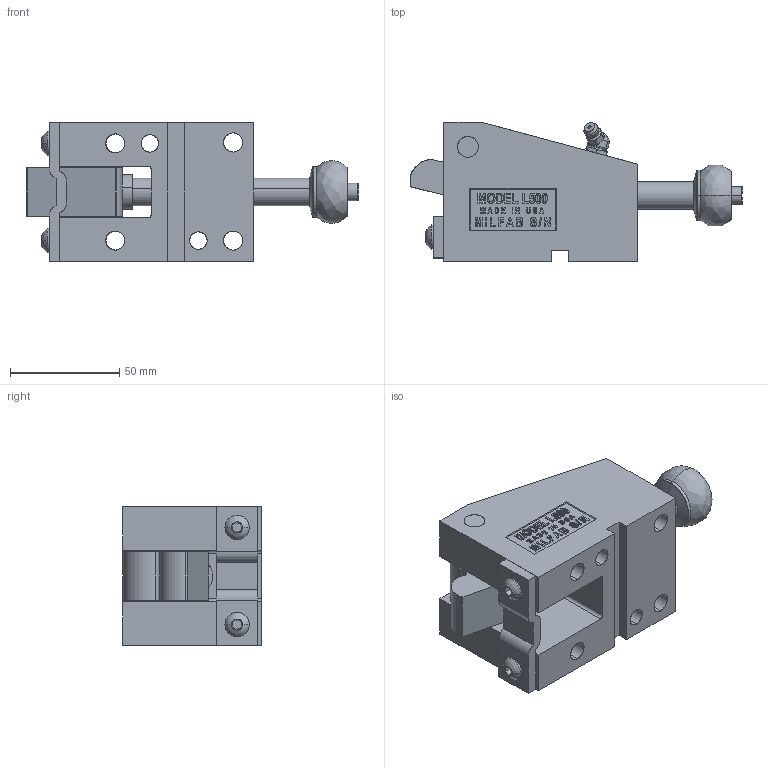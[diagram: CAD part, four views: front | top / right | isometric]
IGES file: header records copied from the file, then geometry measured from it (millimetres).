
Start section: SolidWorks IGES file using analytic representation for surfaces
Global section: file name: Y:\JIM'S INCH CAM UNITS\L500\CLOSED\L500-C.IGS; native system: SolidWorks 2006 by SolidWorks Corporation; preprocessor: SolidWorks 2006 by SolidWorks Corporation; author: Jim; date: 090203.135659; units: inch
Bounding box: 151.92 x 63.5 x 63.5 mm (x, y, z)
Surface area: 65120.9 mm2 (no closed solid volume)
Topology: 0 solids, 0 shells, 572 faces, 7413 edges, 7411 vertices
Faces by surface type: bspline 437, revolution 135
